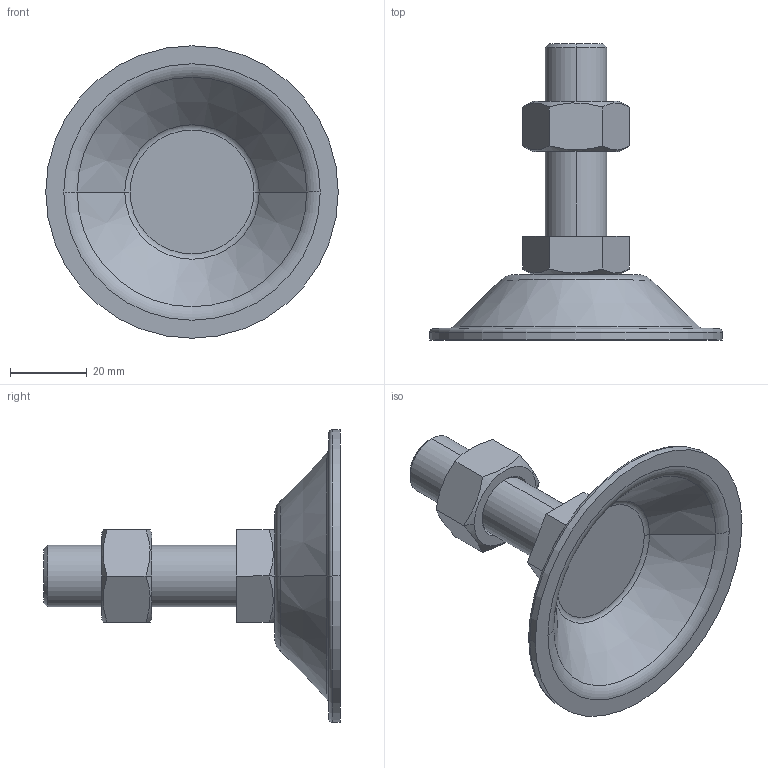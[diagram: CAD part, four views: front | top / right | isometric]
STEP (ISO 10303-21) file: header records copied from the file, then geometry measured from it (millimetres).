
FILE_DESCRIPTION (( 'STEP AP214' ), '1' );
FILE_NAME ('BL76-M16-50.step', '2021-01-06T05:40:19', ( '' ), ( '' ), 'SwSTEP 2.0', 'SolidWorks 2019', '' );
FILE_SCHEMA (( 'AUTOMOTIVE_DESIGN' ));
Length unit declared in the file: millimetre
Products named in the file (1): BL76-M16-50
Bounding box: 76 x 77 x 76 mm (x, y, z)
Volume: 34823.4 mm3; surface area: 17833.2 mm2
Topology: 3 solids, 3 shells, 53 faces, 110 edges, 66 vertices
Faces by surface type: plane 21, cone 16, torus 10, cylinder 6
Entity records: 1618 total; most frequent: CARTESIAN_POINT 428, DIRECTION 252, ORIENTED_EDGE 220, EDGE_CURVE 110, AXIS2_PLACEMENT_3D 106, VERTEX_POINT 66, EDGE_LOOP 58, ADVANCED_FACE 53
